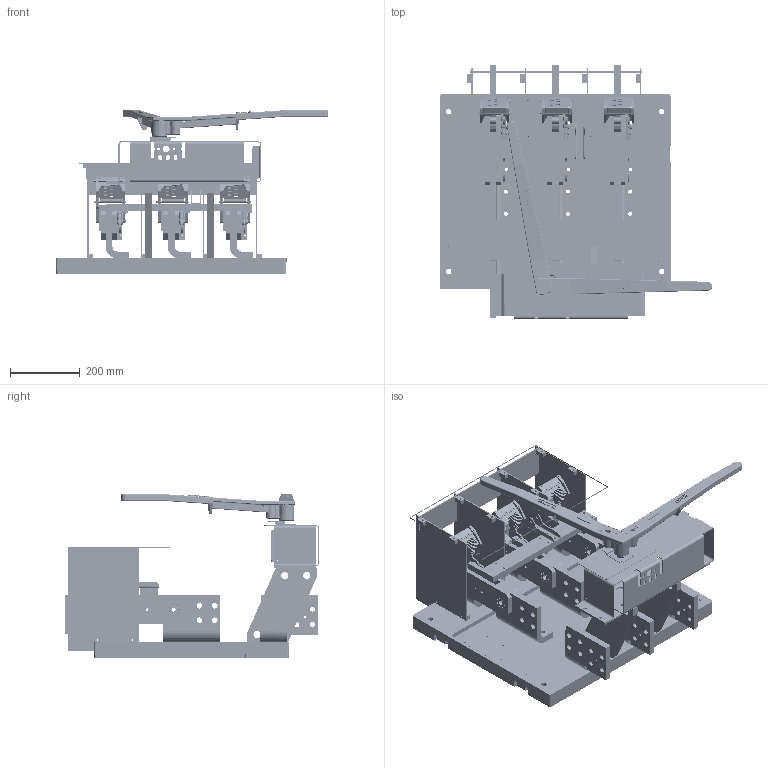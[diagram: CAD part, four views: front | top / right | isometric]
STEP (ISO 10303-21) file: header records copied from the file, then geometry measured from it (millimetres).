
FILE_DESCRIPTION(/* description */ (''),/* implementation_level */ '2;1');
FILE_NAME(/* name */ 'H:\switches\3d-templates\catalog-switches-iges-files\CATALOG-VL3612.stp',/* time_stamp */ '2022-03-23T15:30:02-05:00',/* author */ ('MKingston'),/* organization */ (''),/* preprocessor_version */ 'ST-DEVELOPER v18.1',/* originating_system */ 'Autodesk Inventor 2022',/* authorisation */ '');
FILE_SCHEMA (('AUTOMOTIVE_DESIGN { 1 0 10303 214 3 1 1 }'));
Products named in the file (46): vl3612; 277; 671-dx; 671-cx; 671-EX; CATALOG-59-qd-arc-chute-assy; 50-ql; 50-qr; 59-qd-f; 363-a; 363-b; 59-QG; Bolted Connection; ANSI B18.6.3 - 8 - 32 x 3 1/2 SR HMS; ANSI B18.2.2 - 8 - 32, HMSNI; Bolted Connection_1; ANSI B18.6.3 - 8 - 32 x 1/2 SR HMS; Bolted Connection_2; ANSI B18.6.3 - 8 - 32 x 5/8 SR HMS; Bolted Connection_3; Bolted Connection_4; Unbrako - 1/4 x 1 1/2(2); CATALOG-3000amp-blade-assy; 671-A; 671-B; 69-gc3; 67-fc3; 70-M; 67-j; ANSI/ASM B18.1.1 - 1/4 x 3/4; ANSI/ASM B18.1.1 - 3/16 x 11/16; 235-b; 230-a; 255-z; 246-a; 820-bw1; 820-fw3; 221-RP,R3; 255-bha; 255-c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
Assembly tree (82 placements, depth 4):
  vl3612
    277
    671-dx  x3
    671-cx  x3
    671-EX  x3
    CATALOG-59-qd-arc-chute-assy  x3
      50-ql
      50-qr
      59-qd-f
      363-a
      363-b
      59-QG
      Bolted Connection
        ANSI B18.6.3 - 8 - 32 x 3 1/2 SR HMS  x2
        ANSI B18.2.2 - 8 - 32, HMSNI  x2
      Bolted Connection_1
        ANSI B18.6.3 - 8 - 32 x 1/2 SR HMS  x2
      Bolted Connection_2
        ANSI B18.6.3 - 8 - 32 x 5/8 SR HMS  x2
      Bolted Connection_3
        Unbrako - 1/4 x 1 1/2(2)
      Bolted Connection_4
        Unbrako - 1/4 x 1 1/2(2)
    CATALOG-3000amp-blade-assy  x3
      671-A
      671-B
      69-gc3
      67-fc3
      67-j
      70-M
      ANSI/ASM B18.1.1 - 1/4 x 3/4
      ANSI/ASM B18.1.1 - 3/16 x 11/16
    235-b
    230-a
    255-bha  x4
    255-z
    246-a  x2
    820-bw1
    820-fw3
    221-RP,R3
    255-c
    178-c  x8
    178-b  x8
    672-ha
    223-FE
    223-d-transparent
    223-d-transparent-red
Bounding box: 779.42 x 726.77 x 467.84 mm (x, y, z)
Volume: 17962302.2 mm3; surface area: 4038877.9 mm2
Topology: 134 solids, 135 shells, 4289 faces, 10766 edges, 7036 vertices
Faces by surface type: plane 2153, cylinder 1277, cone 607, bspline 142, torus 92, sphere 18
Full cylindrical faces by diameter (mm): 1.702 x8, 3.175 x4, 3.302 x32, 3.454 x4, 3.683 x8, 3.962 x4, 4.166 x18, 4.496 x24, 4.762 x49, 4.775 x8, 4.801 x8, 4.902 x14, 4.915 x24, 4.978 x9, 5.556 x3, 5.791 x6, 6.35 x19, 6.528 x47, 7.144 x18, 7.798 x2, 7.938 x3, 8.331 x2, 8.731 x2, 9.525 x6, 9.601 x2, 9.804 x2, 9.906 x13, 9.931 x8, 10.312 x14, 11.796 x3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
Entity records: 85253 total; most frequent: CARTESIAN_POINT 21696, DIRECTION 12925, ORIENTED_EDGE 12684, EDGE_CURVE 6350, AXIS2_PLACEMENT_3D 4604, VERTEX_POINT 4170, LINE 3717, VECTOR 3717
